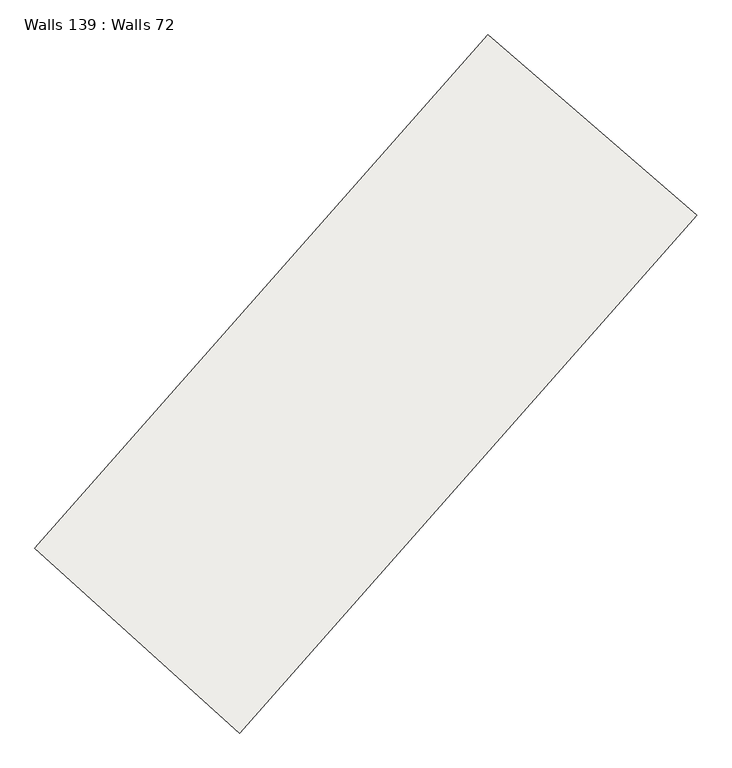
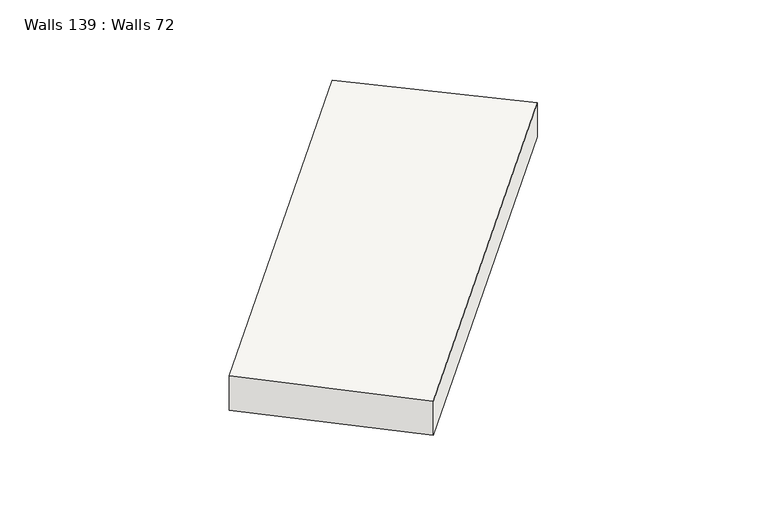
"""IFC4 building model written with IfcOpenShell, lengths in millimetres: slab geometry, Walls 139 : Walls 72."""

from ifc_helpers import new_model, si_unit, frame, origin, place, context, project, spatial, source, transform, mapped, element, save
from ifc_brep_helpers import plane_surface, spline_curve, spline_surface, advanced_brep


def walls_139_walls_72_8e39c9d1(model_context):
    return source(origin(), model_context, "Body", "AdvancedBrep", [
        advanced_brep(
        [(54356.9265816, -102668.2527538, 638890.0), (51709.3079785, -100379.1228465, 638890.0), (51709.3079785, -100379.1228465, 639590.0), (54356.9265816, -102668.2527538, 639590.0), (48556.7959214, -109231.0816962, 638800.0), (48556.7959214, -109231.0816962, 639500.0), (45959.5881882, -106884.9120539, 639500.0), (45959.5881882, -106884.9120539, 638800.0)],
        [
            (0, 1),
            (1, 2),
            (2, 3),
            (3, 0),
            (4, 5),
            (5, 6),
            (6, 7),
            (7, 4),
            (4, 0, spline_curve(3, [(48556.7959214, -109231.0816962, 638800.0), (50513.886845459, -107064.583762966, 638829.999999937), (52447.416167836, -104876.801634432, 638860.000000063), (54356.9265816, -102668.2527538, 638890.0)], [4, 4], [0.0, 28.737347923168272])),
            (3, 5, spline_curve(3, [(54356.9265816, -102668.2527538, 639590.0), (52447.416167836, -104876.801634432, 639560.000000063), (50513.886845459, -107064.583762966, 639529.999999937), (48556.7959214, -109231.0816962, 639500.0)], [4, 4], [0.0, 28.737347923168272])),
            (7, 1, spline_curve(3, [(45959.5881882, -106884.9120539, 638800.0), (47899.669382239, -104737.243876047, 638830.000000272), (49816.393756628, -102568.476492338, 638859.999999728), (51709.3079785, -100379.1228465, 638890.0)], [4, 4], [0.0, 28.61247819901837])),
            (6, 2, spline_curve(3, [(45959.5881882, -106884.9120539, 639500.0), (47899.669381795, -104737.24387611, 639529.999999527), (49816.393756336, -102568.476492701, 639560.000000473), (51709.3079785, -100379.1228465, 639590.0)], [4, 4], [0.0, 28.487608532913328])),
        ],
        [
            plane_surface(frame((53033.1172801, -101523.6878001, 639240.0), z_axis=(0.6540371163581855, 0.7564624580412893, 0.0), x_axis=(0.7564624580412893, -0.6540371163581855, 0.0))),
            plane_surface(frame((47258.1920548, -108057.996875, 639150.0), z_axis=(-0.6703341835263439, -0.7420593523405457, 0.0), x_axis=(-0.7420593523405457, 0.6703341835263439, 0.0))),
            spline_surface(3, 3, [[(48556.7959214, -109231.0816962, 639500.0), (50513.886845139, -107064.583762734, 639530.0), (52447.416167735, -104876.801634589, 639560.0), (54356.9265816, -102668.2527538, 639590.0)], [(48556.7959214, -109231.0816962, 639266.666666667), (50513.886845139, -107064.583762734, 639296.666666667), (52447.416167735, -104876.801634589, 639326.666666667), (54356.9265816, -102668.2527538, 639356.666666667)], [(48556.7959214, -109231.0816962, 639033.333333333), (50513.886845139, -107064.583762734, 639063.333333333), (52447.416167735, -104876.801634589, 639093.333333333), (54356.9265816, -102668.2527538, 639123.333333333)], [(48556.7959214, -109231.0816962, 638800.0), (50513.886845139, -107064.583762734, 638830.0), (52447.416167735, -104876.801634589, 638860.0), (54356.9265816, -102668.2527538, 638890.0)]], [4, 4], [4, 4], [0.0, 2.2965879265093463], [0.0, 28.737347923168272]),
            spline_surface(3, 3, [[(48556.7959214, -109231.0816962, 638800.0), (50513.886845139, -107064.583762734, 638830.0), (52447.416167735, -104876.801634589, 638860.0), (54356.9265816, -102668.2527538, 638890.0)], [(47691.060010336, -108449.025148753, 638800.0), (49642.481024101, -106288.803800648, 638830.0), (51570.408697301, -104107.359920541, 638860.0), (53474.387047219, -101905.209451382, 638890.0)], [(46825.324099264, -107666.968601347, 638800.0), (48771.075203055, -105513.023838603, 638830.0), (50693.401226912, -103337.918206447, 638860.0), (52591.847512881, -101142.166148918, 638890.0)], [(45959.5881882, -106884.9120539, 638800.0), (47899.669382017, -104737.243876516, 638830.0), (49816.393756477, -102568.4764924, 638860.0), (51709.3079785, -100379.1228465, 638890.0)]], [4, 4], [4, 4], [0.0, 11.482939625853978], [0.0, 28.61247819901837]),
            spline_surface(3, 3, [[(45959.5881882, -106884.9120539, 638800.0), (47899.669382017, -104737.243876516, 638830.0), (49816.393756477, -102568.4764924, 638860.0), (51709.3079785, -100379.1228465, 638890.0)], [(45959.5881882, -106884.9120539, 639033.333333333), (47899.669382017, -104737.243876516, 639063.333333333), (49816.393756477, -102568.4764924, 639093.333333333), (51709.3079785, -100379.1228465, 639123.333333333)], [(45959.5881882, -106884.9120539, 639266.666666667), (47899.669382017, -104737.243876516, 639296.666666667), (49816.393756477, -102568.4764924, 639326.666666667), (51709.3079785, -100379.1228465, 639356.666666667)], [(45959.5881882, -106884.9120539, 639500.0), (47899.669382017, -104737.243876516, 639530.0), (49816.393756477, -102568.4764924, 639560.0), (51709.3079785, -100379.1228465, 639590.0)]], [4, 4], [4, 4], [0.0, 2.2965879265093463], [0.0, 28.487608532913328]),
            spline_surface(3, 3, [[(45959.5881882, -106884.9120539, 639500.0), (47899.669382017, -104737.243876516, 639530.0), (49816.393756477, -102568.4764924, 639560.0), (51709.3079785, -100379.1228465, 639590.0)], [(46825.324099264, -107666.968601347, 639500.0), (48771.075203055, -105513.023838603, 639530.0), (50693.401226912, -103337.918206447, 639560.0), (52591.847512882, -101142.166148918, 639590.0)], [(47691.060010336, -108449.025148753, 639500.0), (49642.481024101, -106288.803800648, 639530.0), (51570.408697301, -104107.359920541, 639560.0), (53474.387047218, -101905.209451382, 639590.0)], [(48556.7959214, -109231.0816962, 639500.0), (50513.886845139, -107064.583762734, 639530.0), (52447.416167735, -104876.801634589, 639560.0), (54356.9265816, -102668.2527538, 639590.0)]], [4, 4], [4, 4], [0.0, 11.482939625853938], [0.0, 28.61247819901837]),
        ],
        [
            (0, [[1, 2, 3, 4]]),
            (1, [[5, 6, 7, 8]]),
            (2, [[-5, 9, -4, 10]]),
            (3, [[-8, 11, -1, -9]]),
            (4, [[-7, 12, -2, -11]]),
            (5, [[-6, -10, -3, -12]]),
        ],
    ),
    ])


if __name__ == "__main__":
    model = new_model("IFC4")
    model_context = context("Model", 3, world=origin())
    ifc_project = project(units=[si_unit("LENGTHUNIT", "METRE", prefix="MILLI")], contexts=[model_context])
    site = spatial("IfcSite", under=ifc_project)
    building = spatial("IfcBuilding", under=site)
    placement = place(None, origin())
    walls_139_walls_72_shape = walls_139_walls_72_8e39c9d1(model_context)
    element("IfcSlab", 1, ObjectType="Walls 139 : Walls 72", at=placement, inside=building, context=model_context, shape_type="MappedRepresentation", body=[
        mapped(walls_139_walls_72_shape, transform((0.0, 0.0, 0.0), x_axis=(1.0, 0.0, 0.0), y_axis=(0.0, 1.0, 0.0), z_axis=(0.0, 0.0, 1.0))),
    ])
    save(model, "model.ifc")
